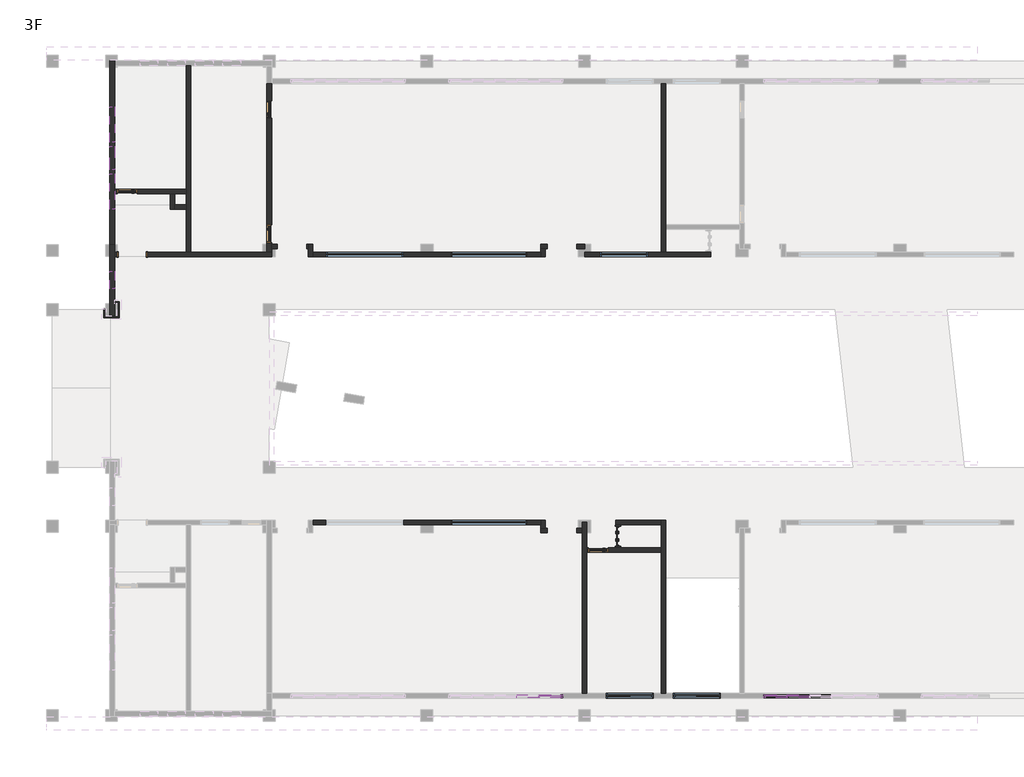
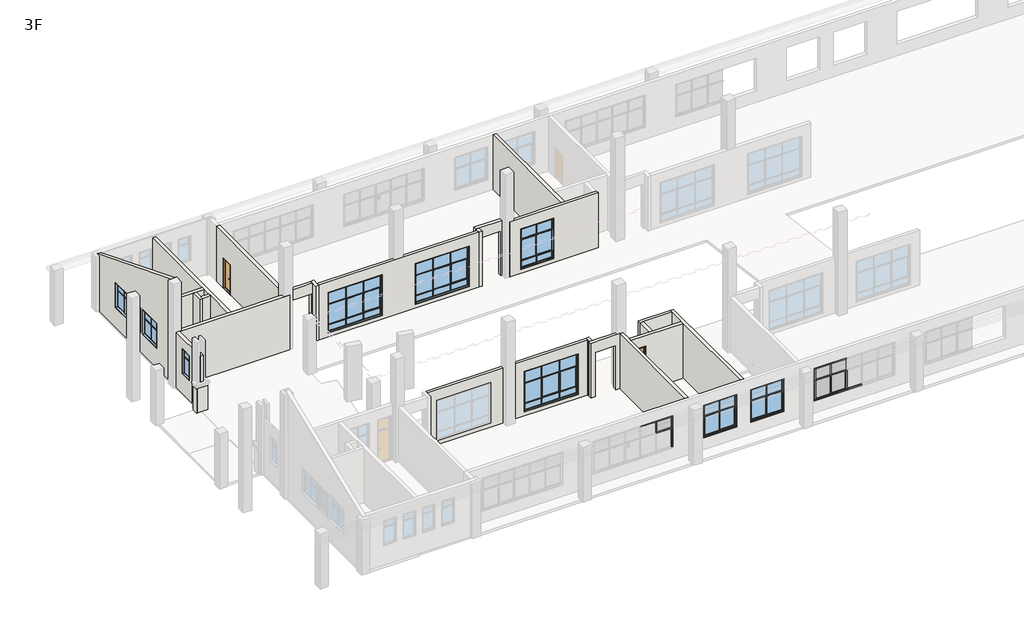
# One storey, part 2 of 9: 27 walls, 17 members, 10 windows, 6 doors, 4 plates.
"""IFC4 building model written with IfcOpenShell, lengths in millimetres."""

from ifc_helpers import new_model, si_unit, frame, origin, place, context, project, spatial, polyline, outline, extrude, faceted_brep, transform, mapped, element, save
from components import door_014e05d9, dk1_dk1_83e99b34, m2_m2_a1934b10, m3_m3_9c525ee5, m4_m4_ba408c81, m4_m4_3ad702a5, member_7564be38, member_1f4d75dd, member_0b7842ad, member_163d5e45, member_ffafc35e, member_2b011958, member_9c26cac3, member_6c42befd, member_a374fdad, plate_1cc4df2b, plate_4fa5932a, plate_18a10205, window_f5fa71fb, lc2_lc2_631be3da, lc4_lc4_4954e093, lc4_lc4_b4c6c5ac, lc5_lc5_223d64ff, lc5_lc5_9ec79463, lc7_lc7_e78a5a98, lc7a_lc7a_525a1188, lc8_lc8_f37dbe4c

model = new_model("IFC4")

# Units and contexts
model_context = context("Model", 3, world=origin())
ifc_project = project(units=[si_unit("LENGTHUNIT", "METRE", prefix="MILLI")], contexts=[model_context])

# Site, building, storey
site = spatial("IfcSite", under=ifc_project)
building = spatial("IfcBuilding", under=site)
storey = spatial("IfcBuildingStorey", under=building, Name="3F", Elevation=8400.0)

# Doors
placement = place(None, origin())
door_shape = door_014e05d9(model_context)
element("IfcDoor", 1, ObjectType="FM(丙）1 : FM(丙）1", at=placement, inside=storey, context=model_context, shape_type="MappedRepresentation", body=[
    mapped(door_shape, transform((28700.0000027, 9100.0, 8400.0), x_axis=(0.0, 1.0, 0.0), y_axis=(-1.0, 0.0, 0.0), z_axis=(0.0, 0.0, 1.0))),
])
dk1_dk1_shape = dk1_dk1_83e99b34(model_context)
element("IfcDoor", 2, ObjectType="DK1 : DK1", at=placement, inside=storey, context=model_context, shape_type="MappedRepresentation", body=[
    mapped(dk1_dk1_shape, transform((4050.0, 23399.723093, 8400.0), x_axis=(1.0, 0.0, 0.0), y_axis=(0.0, 1.0, 0.0), z_axis=(0.0, 0.0, 1.0))),
])
m2_m2_shape = m2_m2_a1934b10(model_context)
element("IfcDoor", 3, ObjectType="M2 : M2", at=placement, inside=storey, context=model_context, shape_type="MappedRepresentation", body=[
    mapped(m2_m2_shape, transform((27700.0000004, 8399.6678355, 8400.0), x_axis=(1.0, 0.0, 0.0), y_axis=(0.0, 1.0, 0.0), z_axis=(0.0, 0.0, 1.0))),
])
m3_m3_shape = m3_m3_9c525ee5(model_context)
element("IfcDoor", 4, ObjectType="M3 : M3", at=placement, inside=storey, context=model_context, shape_type="MappedRepresentation", body=[
    mapped(m3_m3_shape, transform((3800.0000003, 26599.2230983, 8400.0), x_axis=(1.0, 0.0, 0.0), y_axis=(0.0, 1.0, 0.0), z_axis=(0.0, 0.0, 1.0))),
])
m4_m4_shape = m4_m4_ba408c81(model_context)
element("IfcDoor", 5, ObjectType="M4 : M4", at=placement, inside=storey, context=model_context, shape_type="MappedRepresentation", body=[
    mapped(m4_m4_shape, transform((11000.0, 30750.0, 8400.0), x_axis=(0.0, -1.0, 0.0), y_axis=(1.0, 0.0, 0.0), z_axis=(0.0, 0.0, 1.0))),
])
m4_m4_2_shape = m4_m4_3ad702a5(model_context)
element("IfcDoor", 6, ObjectType="M4 : M4", at=placement, inside=storey, context=model_context, shape_type="MappedRepresentation", body=[
    mapped(m4_m4_2_shape, transform((11000.0, 24450.0, 8400.0), x_axis=(0.0, 1.0, 0.0), y_axis=(-1.0, 0.0, 0.0), z_axis=(0.0, 0.0, 1.0))),
])

# Members
member_shape = member_7564be38(model_context)
element("IfcMember", 7, ObjectType="矩形竖梃 : 教学楼 – 矩形竖梃 – 100x150mm", at=placement, inside=storey, context=model_context, shape_type="MappedRepresentation", body=[
    mapped(member_shape, transform((25900.0, 990.0, 11800.0), x_axis=(0.0, 0.0, 1.0), y_axis=(0.0, -1.0, 0.0), z_axis=(1.0, 0.0, 0.0))),
])
element("IfcMember", 8, ObjectType="矩形竖梃 : 教学楼 – 矩形竖梃 – 100x150mm", at=placement, inside=storey, context=model_context, shape_type="MappedRepresentation", body=[
    mapped(member_shape, transform((36100.0, 990.0, 9300.0), x_axis=(0.0, 0.0, -1.0), y_axis=(0.0, -1.0, 0.0), z_axis=(-1.0, 0.0, 0.0))),
])
member_2_shape = member_1f4d75dd(model_context)
element("IfcMember", 9, ObjectType="矩形竖梃 : 教学楼 – 矩形竖梃 – 50x150mm", at=placement, inside=storey, context=model_context, shape_type="MappedRepresentation", body=[
    mapped(member_2_shape, transform((38450.0, 990.0, 9400.0), x_axis=(1.0, 0.0, 0.0), y_axis=(0.0, -1.0, 0.0), z_axis=(0.0, 0.0, -1.0))),
])
member_3_shape = member_0b7842ad(model_context)
element("IfcMember", 10, ObjectType="矩形竖梃 : 教学楼 – 矩形竖梃 – 50x150mm", at=placement, inside=storey, context=model_context, shape_type="MappedRepresentation", body=[
    mapped(member_3_shape, transform((37300.0, 990.0, 10850.0), x_axis=(0.0, 0.0, 1.0), y_axis=(0.0, -1.0, 0.0), z_axis=(1.0, 0.0, 0.0))),
])
member_4_shape = member_163d5e45(model_context)
element("IfcMember", 11, ObjectType="矩形竖梃 : 教学楼 – 矩形竖梃 – 50x150mm", at=placement, inside=storey, context=model_context, shape_type="MappedRepresentation", body=[
    mapped(member_4_shape, transform((38450.0, 990.0, 10850.0), x_axis=(0.0, 0.0, 1.0), y_axis=(0.0, -1.0, 0.0), z_axis=(1.0, 0.0, 0.0))),
])
element("IfcMember", 12, ObjectType="矩形竖梃 : 教学楼 – 矩形竖梃 – 50x150mm", at=placement, inside=storey, context=model_context, shape_type="MappedRepresentation", body=[
    mapped(member_3_shape, transform((25800.0, 990.0, 10850.0), x_axis=(0.0, 0.0, 1.0), y_axis=(0.0, -1.0, 0.0), z_axis=(1.0, 0.0, 0.0))),
])
member_5_shape = member_ffafc35e(model_context)
element("IfcMember", 13, ObjectType="矩形竖梃 : 教学楼 – 矩形竖梃 – 100x150mm", at=placement, inside=storey, context=model_context, shape_type="MappedRepresentation", body=[
    mapped(member_5_shape, transform((37300.0, 990.0, 9300.0), x_axis=(0.0, 0.0, -1.0), y_axis=(0.0, -1.0, 0.0), z_axis=(-1.0, 0.0, 0.0))),
])
member_6_shape = member_2b011958(model_context)
element("IfcMember", 14, ObjectType="矩形竖梃 : 教学楼 – 矩形竖梃 – 100x150mm", at=placement, inside=storey, context=model_context, shape_type="MappedRepresentation", body=[
    mapped(member_6_shape, transform((38450.0, 990.0, 9300.0), x_axis=(0.0, 0.0, -1.0), y_axis=(0.0, -1.0, 0.0), z_axis=(-1.0, 0.0, 0.0))),
])
element("IfcMember", 15, ObjectType="矩形竖梃 : 教学楼 – 矩形竖梃 – 100x150mm", at=placement, inside=storey, context=model_context, shape_type="MappedRepresentation", body=[
    mapped(member_shape, transform((37300.0, 990.0, 11800.0), x_axis=(0.0, 0.0, 1.0), y_axis=(0.0, -1.0, 0.0), z_axis=(1.0, 0.0, 0.0))),
])
element("IfcMember", 16, ObjectType="矩形竖梃 : 教学楼 – 矩形竖梃 – 100x150mm", at=placement, inside=storey, context=model_context, shape_type="MappedRepresentation", body=[
    mapped(member_5_shape, transform((24700.0, 990.0, 11800.0), x_axis=(0.0, 0.0, 1.0), y_axis=(0.0, -1.0, 0.0), z_axis=(1.0, 0.0, 0.0))),
])
element("IfcMember", 17, ObjectType="矩形竖梃 : 教学楼 – 矩形竖梃 – 100x150mm", at=placement, inside=storey, context=model_context, shape_type="MappedRepresentation", body=[
    mapped(member_5_shape, transform((38450.0, 990.0, 11800.0), x_axis=(0.0, 0.0, 1.0), y_axis=(0.0, -1.0, 0.0), z_axis=(1.0, 0.0, 0.0))),
])
member_7_shape = member_9c26cac3(model_context)
element("IfcMember", 18, ObjectType="矩形竖梃 : 教学楼 – 矩形竖梃 – 50x150mm", at=placement, inside=storey, context=model_context, shape_type="MappedRepresentation", body=[
    mapped(member_7_shape, transform((24700.0, 990.0, 10875.0), x_axis=(1.0, 0.0, 0.0), y_axis=(0.0, -1.0, 0.0), z_axis=(0.0, 0.0, -1.0))),
])
element("IfcMember", 19, ObjectType="矩形竖梃 : 教学楼 – 矩形竖梃 – 50x150mm", at=placement, inside=storey, context=model_context, shape_type="MappedRepresentation", body=[
    mapped(member_7_shape, transform((37300.0, 990.0, 10875.0), x_axis=(1.0, 0.0, 0.0), y_axis=(0.0, -1.0, 0.0), z_axis=(0.0, 0.0, -1.0))),
])
member_8_shape = member_6c42befd(model_context)
element("IfcMember", 20, ObjectType="矩形竖梃 : 教学楼 – 矩形竖梃 – 100x150mm", at=placement, inside=storey, context=model_context, shape_type="MappedRepresentation", body=[
    mapped(member_8_shape, transform((36100.0, 990.0, 11700.0), x_axis=(-1.0, 0.0, 0.0), y_axis=(0.0, -1.0, 0.0), z_axis=(0.0, 0.0, 1.0))),
])
member_9_shape = member_a374fdad(model_context)
element("IfcMember", 21, ObjectType="矩形竖梃 : 教学楼 – 矩形竖梃 – 100x150mm", at=placement, inside=storey, context=model_context, shape_type="MappedRepresentation", body=[
    mapped(member_9_shape, transform((25900.0, 990.0, 9400.0), x_axis=(1.0, 0.0, 0.0), y_axis=(0.0, -1.0, 0.0), z_axis=(0.0, 0.0, -1.0))),
])
element("IfcMember", 22, ObjectType="矩形竖梃 : 教学楼 – 矩形竖梃 – 100x150mm", at=placement, inside=storey, context=model_context, shape_type="MappedRepresentation", body=[
    mapped(member_8_shape, transform((25900.0, 990.0, 10850.0), x_axis=(1.0, 0.0, 0.0), y_axis=(0.0, -1.0, 0.0), z_axis=(0.0, 0.0, -1.0))),
])
element("IfcMember", 23, ObjectType="矩形竖梃 : 教学楼 – 矩形竖梃 – 100x150mm", at=placement, inside=storey, context=model_context, shape_type="MappedRepresentation", body=[
    mapped(member_9_shape, transform((36100.0, 990.0, 10850.0), x_axis=(-1.0, 0.0, 0.0), y_axis=(0.0, -1.0, 0.0), z_axis=(0.0, 0.0, 1.0))),
])

# Plates
plate_shape = plate_1cc4df2b(model_context)
element("IfcPlate", 24, ObjectType="系统嵌板 : 玻璃", at=placement, inside=storey, context=model_context, shape_type="MappedRepresentation", body=[
    mapped(plate_shape, transform((25262.5, 990.0, 10875.0), x_axis=(1.0, 0.0, 0.0), y_axis=(0.0, 1.0, 0.0), z_axis=(0.0, 0.0, 1.0))),
])
element("IfcPlate", 25, ObjectType="系统嵌板 : 玻璃", at=placement, inside=storey, context=model_context, shape_type="MappedRepresentation", body=[
    mapped(plate_shape, transform((36737.5, 990.0, 10875.0), x_axis=(1.0, 0.0, 0.0), y_axis=(0.0, 1.0, 0.0), z_axis=(0.0, 0.0, 1.0))),
])
plate_2_shape = plate_4fa5932a(model_context)
element("IfcPlate", 26, ObjectType="系统嵌板 : 玻璃", at=placement, inside=storey, context=model_context, shape_type="MappedRepresentation", body=[
    mapped(plate_2_shape, transform((37875.0, 990.0, 10875.0), x_axis=(1.0, 0.0, 0.0), y_axis=(0.0, 1.0, 0.0), z_axis=(0.0, 0.0, 1.0))),
])
plate_3_shape = plate_18a10205(model_context)
element("IfcPlate", 27, ObjectType="教学楼 - 窗嵌板：双扇推拉窗 : 教学楼 - 窗嵌板：双扇推拉窗", at=placement, inside=storey, context=model_context, shape_type="MappedRepresentation", body=[
    mapped(plate_3_shape, transform((37312.5, 990.0, 9400.0), x_axis=(1.0, 0.0, 0.0), y_axis=(0.0, 1.0, 0.0), z_axis=(0.0, 0.0, 1.0))),
])

# Walls
element("IfcWall", 28, ObjectType="教学楼 – 饰面砖外墙 – 200mm", at=placement, inside=storey, context=model_context, shape_type="Brep", body=[
    faceted_brep([(3167.0000002, 20300.0, 8400.0), (3167.0000002, 20900.0, 8400.0), (3167.0000002, 20950.0, 8400.0), (3167.0000002, 21000.0, 8400.0), (3167.0000002, 23282.723093, 8400.0), (3167.0000002, 23516.723093, 8400.0), (3167.0000002, 23900.0, 8400.0), (3167.0000002, 23900.0, 12600.0), (3167.0000002, 23516.723093, 12600.0), (3167.0000002, 23282.723093, 12600.0), (3167.0000002, 20300.0, 12600.0), (3167.0000002, 21649.6954632, 9900.0), (3167.0000002, 21649.6954632, 11800.0), (3167.0000002, 22549.6954632, 11800.0), (3167.0000002, 22549.6954632, 9900.0), (2917.0000002, 20300.0, 8400.0), (2917.0000002, 20300.0, 12600.0), (2917.0000002, 23300.0, 12600.0), (2917.0000002, 23900.0, 12600.0), (2917.0000002, 23900.0, 8400.0), (2917.0000002, 23300.0, 8400.0), (2917.0000002, 20900.0, 8400.0), (2917.0000002, 21649.6954632, 9900.0), (2917.0000002, 22549.6954632, 9900.0), (2917.0000002, 22549.6954632, 11800.0), (2917.0000002, 21649.6954632, 11800.0)], [[[0, 1, 2, 3, 4, 5, 6, 7, 8, 9, 10], [11, 12, 13, 14]], [[15, 16, 17, 18, 19, 20, 21], [22, 23, 24, 25]], [[6, 5, 4, 3, 2, 1, 0, 15, 21, 20, 19]], [[7, 6, 19, 18]], [[10, 9, 8, 7, 18, 17, 16]], [[0, 10, 16, 15]], [[12, 11, 22, 25]], [[13, 12, 25, 24]], [[14, 13, 24, 23]], [[11, 14, 23, 22]]]),
])
element("IfcWall", 29, ObjectType="教学楼 – 涂料内墙 – 200mm", at=placement, inside=storey, context=model_context, shape_type="Brep", body=[
    faceted_brep([(10883.0, 23516.723093, 12600.0), (10883.0, 23916.723093, 12600.0), (10883.0, 32075.0, 12600.0), (10883.0, 32075.0, 8400.0), (10883.0, 31200.0, 8400.0), (10883.0, 31200.0, 10700.0), (10883.0, 30300.0, 10700.0), (10883.0, 30300.0, 8400.0), (10883.0, 24900.0, 8400.0), (10883.0, 24900.0, 10700.0), (10883.0, 24000.0, 10700.0), (10883.0, 24000.0, 8400.0), (10883.0, 23916.723093, 8400.0), (10883.0, 23516.723093, 8400.0), (11117.0, 32075.0, 12600.0), (11117.0, 23916.7231012, 12600.0), (11117.0, 23682.7231012, 12600.0), (11117.0, 23516.723093, 12600.0), (11117.0, 23516.723093, 8400.0), (11117.0, 23682.7231012, 8400.0), (11117.0, 23916.7231012, 8400.0), (11117.0, 24000.0, 8400.0), (11117.0, 24000.0, 10700.0), (11117.0, 24900.0, 10700.0), (11117.0, 24900.0, 8400.0), (11117.0, 30300.0, 8400.0), (11117.0, 30300.0, 10700.0), (11117.0, 31200.0, 10700.0), (11117.0, 31200.0, 8400.0), (11117.0, 32075.0, 8400.0)], [[[0, 1, 2, 3, 4, 5, 6, 7, 8, 9, 10, 11, 12, 13]], [[14, 15, 16, 17, 18, 19, 20, 21, 22, 23, 24, 25, 26, 27, 28, 29]], [[18, 13, 12, 11, 21, 20, 19]], [[3, 29, 28, 4]], [[7, 25, 24, 8]], [[2, 1, 0, 17, 16, 15, 14]], [[3, 2, 14, 29]], [[0, 13, 18, 17]], [[6, 26, 25, 7]], [[26, 6, 5, 27]], [[27, 5, 4, 28]], [[23, 9, 8, 24]], [[9, 23, 22, 10]], [[10, 22, 21, 11]]]),
])
element("IfcWall", 30, ObjectType="教学楼 – 涂料内墙 – 200mm", at=placement, inside=storey, context=model_context, shape_type="Brep", body=[
    faceted_brep([(6783.0000003, 32982.6954639, 8400.0), (6783.0000003, 26716.2230983, 8400.0), (6783.0000003, 26482.2230983, 8400.0), (6783.0000003, 25916.2231012, 8400.0), (6783.0000003, 25682.2231012, 8400.0), (6783.0000003, 23516.723093, 8400.0), (6783.0000003, 23516.723093, 12600.0), (6783.0000003, 25682.2231012, 12600.0), (6783.0000003, 25916.2231012, 12600.0), (6783.0000003, 26482.2230983, 12600.0), (6783.0000003, 26716.2230983, 12600.0), (6783.0000003, 32982.6954639, 12600.0), (7017.0000003, 32982.6954639, 8400.0), (7017.0000003, 32982.6954639, 12600.0), (7017.0000003, 23516.723093, 12600.0), (7017.0000003, 23516.723093, 8400.0)], [[[0, 1, 2, 3, 4, 5, 6, 7, 8, 9, 10, 11]], [[12, 13, 14, 15]], [[5, 4, 3, 2, 1, 0, 12, 15]], [[11, 10, 9, 8, 7, 6, 14, 13]], [[6, 5, 15, 14]], [[0, 11, 13, 12]]]),
])
element("IfcWall", 31, ObjectType="教学楼 – 涂料内墙 – 200mm", at=placement, inside=storey, context=model_context, shape_type="Brep", body=[
    faceted_brep([(30883.0000029, 32075.0, 8400.0), (30883.0000029, 23516.6954638, 8400.0), (30883.0000029, 23516.6954638, 12600.0), (30883.0000029, 32075.0, 12600.0), (31117.0000029, 32075.0, 8400.0), (31117.0000029, 32075.0, 12600.0), (31117.0000029, 24916.6954638, 12600.0), (31117.0000029, 24682.6954638, 12600.0), (31117.0000029, 23516.6954638, 12600.0), (31117.0000029, 23516.6954638, 8400.0), (31117.0000029, 24682.6954638, 8400.0), (31117.0000029, 24916.6954638, 8400.0)], [[[0, 1, 2, 3]], [[4, 5, 6, 7, 8, 9, 10, 11]], [[1, 0, 4, 11, 10, 9]], [[3, 2, 8, 7, 6, 5]], [[2, 1, 9, 8]], [[0, 3, 5, 4]]]),
])
element("IfcWall", 32, ObjectType="教学楼 – 涂料内墙 – 200mm", at=placement, inside=storey, context=model_context, shape_type="Brep", body=[
    faceted_brep([(27000.0, 23282.6954638, 8400.0), (33417.0000031, 23282.6954638, 8400.0), (33417.0000031, 23282.6954638, 12600.0), (27000.0, 23282.6954638, 12600.0), (30200.0, 23282.6954638, 8700.0), (27800.0, 23282.6954638, 8700.0), (27800.0, 23282.6954638, 11800.0), (30200.0, 23282.6954638, 11800.0), (27000.0, 23516.6954638, 8400.0), (27000.0, 23516.6954638, 12600.0), (27317.0, 23516.6954638, 12600.0), (30883.0000029, 23516.6954638, 12600.0), (31117.0000029, 23516.6954638, 12600.0), (33183.0000031, 23516.6954638, 12600.0), (33417.0000031, 23516.6954638, 12600.0), (33417.0000031, 23516.6954638, 8400.0), (33183.0000031, 23516.6954638, 8400.0), (31117.0000029, 23516.6954638, 8400.0), (30883.0000029, 23516.6954638, 8400.0), (27317.0, 23516.6954638, 8400.0), (30200.0, 23516.6954638, 8700.0), (30200.0, 23516.6954638, 11800.0), (27800.0, 23516.6954638, 11800.0), (27800.0, 23516.6954638, 8700.0), (27000.0, 23283.0, 8400.0), (27000.0, 23283.0, 12600.0)], [[[0, 1, 2, 3], [4, 5, 6, 7]], [[8, 9, 10, 11, 12, 13, 14, 15, 16, 17, 18, 19], [20, 21, 22, 23]], [[1, 0, 24, 8, 19, 18, 17, 16, 15]], [[3, 2, 14, 13, 12, 11, 10, 9, 25]], [[0, 3, 25, 9, 8, 24]], [[2, 1, 15, 14]], [[21, 20, 4, 7]], [[22, 21, 7, 6]], [[23, 22, 6, 5]], [[20, 23, 5, 4]]]),
])
element("IfcWall", 33, ObjectType="教学楼 – 涂料内墙 – 200mm", at=placement, inside=storey, context=model_context, shape_type="Brep", body=[
    faceted_brep([(24782.9999964, 23916.7231007, 12600.0), (26683.0, 23916.7231007, 12600.0), (27000.0, 23916.7231007, 12600.0), (27000.0, 23916.7231007, 8400.0), (26683.0, 23916.7231007, 8400.0), (26599.9999969, 23916.7231007, 8400.0), (26599.9999969, 23916.7231007, 11800.0), (25099.9999969, 23916.7231007, 11800.0), (25099.9999969, 23916.7231007, 8400.0), (24782.9999964, 23916.7231007, 8400.0), (27000.0, 23682.7231007, 12600.0), (26683.0, 23682.7231007, 12600.0), (25016.9999964, 23682.7231007, 12600.0), (24782.9999964, 23682.7231007, 12600.0), (24782.9999964, 23682.7231007, 8400.0), (25016.9999964, 23682.7231007, 8400.0), (25099.9999969, 23682.7231007, 8400.0), (25099.9999969, 23682.7231007, 11800.0), (26599.9999969, 23682.7231007, 11800.0), (26599.9999969, 23682.7231007, 8400.0), (26683.0, 23682.7231007, 8400.0), (27000.0, 23682.7231007, 8400.0)], [[[0, 1, 2, 3, 4, 5, 6, 7, 8, 9]], [[10, 11, 12, 13, 14, 15, 16, 17, 18, 19, 20, 21]], [[14, 9, 8, 16, 15]], [[3, 21, 20, 19, 5, 4]], [[2, 1, 0, 13, 12, 11, 10]], [[3, 2, 10, 21]], [[0, 9, 14, 13]], [[7, 17, 16, 8]], [[17, 7, 6, 18]], [[18, 6, 5, 19]]]),
])
element("IfcWall", 34, ObjectType="教学楼 – 涂料内墙 – 200mm", at=placement, inside=storey, context=model_context, shape_type="Brep", body=[
    faceted_brep([(24782.9999964, 23682.7231007, 8400.0), (24782.9999964, 23516.6954641, 8400.0), (24782.9999964, 23282.6954641, 8400.0), (24782.9999964, 23282.6954641, 12600.0), (24782.9999964, 23516.6954641, 12600.0), (24782.9999964, 23682.7231007, 12600.0), (25016.9999964, 23682.7231007, 8400.0), (25016.9999964, 23682.7231007, 12600.0), (25016.9999964, 23282.6954641, 12600.0), (25016.9999964, 23282.6954641, 8400.0)], [[[0, 1, 2, 3, 4, 5]], [[6, 7, 8, 9]], [[2, 1, 0, 6, 9]], [[5, 4, 3, 8, 7]], [[0, 5, 7, 6]], [[3, 2, 9, 8]]]),
])
element("IfcWall", 35, ObjectType="教学楼 – 涂料内墙 – 200mm", at=placement, inside=storey, context=model_context, shape_type="Brep", body=[
    faceted_brep([(24782.9999964, 23516.6954641, 8400.0), (19317.0, 23516.6954641, 8400.0), (18683.0, 23516.6954641, 8400.0), (13216.9999996, 23516.6954641, 8400.0), (13216.9999996, 23516.6954641, 12600.0), (18683.0, 23516.6954641, 12600.0), (19317.0, 23516.6954641, 12600.0), (24782.9999964, 23516.6954641, 12600.0), (24099.9999999, 23516.6954641, 8700.0), (24099.9999999, 23516.6954641, 11800.0), (20199.9999999, 23516.6954641, 11800.0), (20199.9999999, 23516.6954641, 8700.0), (17799.999999, 23516.6954641, 8700.0), (17799.999999, 23516.6954641, 11800.0), (13899.999999, 23516.6954641, 11800.0), (13899.999999, 23516.6954641, 8700.0), (24782.9999964, 23282.6954641, 8400.0), (24782.9999964, 23282.6954641, 12600.0), (13216.9999996, 23282.6954641, 12600.0), (13216.9999996, 23282.6954641, 8400.0), (24099.9999999, 23282.6954641, 8700.0), (20199.9999999, 23282.6954641, 8700.0), (20199.9999999, 23282.6954641, 11800.0), (24099.9999999, 23282.6954641, 11800.0), (17799.999999, 23282.6954641, 8700.0), (13899.999999, 23282.6954641, 8700.0), (13899.999999, 23282.6954641, 11800.0), (17799.999999, 23282.6954641, 11800.0)], [[[0, 1, 2, 3, 4, 5, 6, 7], [8, 9, 10, 11], [12, 13, 14, 15]], [[16, 17, 18, 19], [20, 21, 22, 23], [24, 25, 26, 27]], [[3, 2, 1, 0, 16, 19]], [[7, 6, 5, 4, 18, 17]], [[0, 7, 17, 16]], [[4, 3, 19, 18]], [[9, 8, 20, 23]], [[10, 9, 23, 22]], [[11, 10, 22, 21]], [[8, 11, 21, 20]], [[13, 12, 24, 27]], [[14, 13, 27, 26]], [[15, 14, 26, 25]], [[12, 15, 25, 24]]]),
])
element("IfcWall", 36, ObjectType="教学楼 – 涂料内墙 – 200mm", at=placement, inside=storey, context=model_context, shape_type="Brep", body=[
    faceted_brep([(13216.9999996, 23282.6954641, 8400.0), (13216.9999996, 23516.6954641, 8400.0), (13216.9999996, 23916.7231012, 8400.0), (13216.9999996, 23916.7231012, 12600.0), (13216.9999996, 23516.6954641, 12600.0), (13216.9999996, 23282.6954641, 12600.0), (12982.9999996, 23282.6954641, 8400.0), (12982.9999996, 23282.6954641, 12600.0), (12982.9999996, 23682.7231012, 12600.0), (12982.9999996, 23916.7231012, 12600.0), (12982.9999996, 23916.7231012, 8400.0), (12982.9999996, 23682.7231012, 8400.0)], [[[0, 1, 2, 3, 4, 5]], [[6, 7, 8, 9, 10, 11]], [[2, 1, 0, 6, 11, 10]], [[5, 4, 3, 9, 8, 7]], [[3, 2, 10, 9]], [[0, 5, 7, 6]]]),
])
element("IfcWall", 37, ObjectType="教学楼 – 涂料内墙 – 200mm", at=placement, inside=storey, context=model_context, shape_type="Brep", body=[
    faceted_brep([(11117.0, 23916.7231012, 12600.0), (12982.9999996, 23916.7231012, 12600.0), (12982.9999996, 23916.7231012, 8400.0), (12900.0000009, 23916.7231012, 8400.0), (12900.0000009, 23916.7231012, 11800.0), (11400.0000009, 23916.7231012, 11800.0), (11400.0000009, 23916.7231012, 8400.0), (11117.0, 23916.7231012, 8400.0), (12982.9999996, 23682.7231012, 12600.0), (11317.0, 23682.7231012, 12600.0), (11117.0, 23682.7231012, 12600.0), (11117.0, 23682.7231012, 8400.0), (11317.0, 23682.7231012, 8400.0), (11400.0000009, 23682.7231012, 8400.0), (11400.0000009, 23682.7231012, 11800.0), (12900.0000009, 23682.7231012, 11800.0), (12900.0000009, 23682.7231012, 8400.0), (12982.9999996, 23682.7231012, 8400.0)], [[[0, 1, 2, 3, 4, 5, 6, 7]], [[8, 9, 10, 11, 12, 13, 14, 15, 16, 17]], [[2, 17, 16, 3]], [[11, 7, 6, 13, 12]], [[1, 0, 10, 9, 8]], [[2, 1, 8, 17]], [[0, 7, 11, 10]], [[5, 14, 13, 6]], [[14, 5, 4, 15]], [[15, 4, 3, 16]]]),
])
element("IfcWall", 38, ObjectType="教学楼 – 涂料内墙 – 200mm", at=placement, inside=storey, context=model_context, shape_type="Brep", body=[
    faceted_brep([(11117.0, 23282.723093, 12600.0), (10683.0, 23282.723093, 12600.0), (3167.0000002, 23282.723093, 12600.0), (3167.0000002, 23282.723093, 8400.0), (3300.0, 23282.723093, 8400.0), (3300.0, 23282.723093, 10800.0), (4800.0, 23282.723093, 10800.0), (4800.0, 23282.723093, 8400.0), (11117.0, 23282.723093, 8400.0), (3167.0000002, 23516.723093, 12600.0), (3300.0, 23516.723093, 12600.0), (6783.0000003, 23516.723093, 12600.0), (7017.0000003, 23516.723093, 12600.0), (10683.0, 23516.723093, 12600.0), (10883.0, 23516.723093, 12600.0), (11117.0, 23516.723093, 12600.0), (11117.0, 23516.723093, 8400.0), (10883.0, 23516.723093, 8400.0), (10683.0, 23516.723093, 8400.0), (7017.0000003, 23516.723093, 8400.0), (6783.0000003, 23516.723093, 8400.0), (4800.0, 23516.723093, 8400.0), (4800.0, 23516.723093, 10800.0), (3300.0, 23516.723093, 10800.0), (3300.0, 23516.723093, 8400.0), (3167.0000002, 23516.723093, 8400.0)], [[[0, 1, 2, 3, 4, 5, 6, 7, 8]], [[9, 10, 11, 12, 13, 14, 15, 16, 17, 18, 19, 20, 21, 22, 23, 24, 25]], [[3, 25, 24, 4]], [[16, 8, 7, 21, 20, 19, 18, 17]], [[2, 1, 0, 15, 14, 13, 12, 11, 10, 9]], [[0, 8, 16, 15]], [[3, 2, 9, 25]], [[6, 22, 21, 7]], [[22, 6, 5, 23]], [[23, 5, 4, 24]]]),
])
element("IfcWall", 39, ObjectType="教学楼 – 涂料内墙 – 200mm", at=placement, inside=storey, context=model_context, shape_type="Brep", body=[
    faceted_brep([(3167.0000002, 26716.2230983, 12600.0), (6783.0000003, 26716.2230983, 12600.0), (6783.0000003, 26716.2230983, 8400.0), (4300.0000003, 26716.2230983, 8400.0), (4300.0000003, 26716.2230983, 10700.0), (3300.0000003, 26716.2230983, 10700.0), (3300.0000003, 26716.2230983, 8400.0), (3167.0000002, 26716.2230983, 8400.0), (6783.0000003, 26482.2230983, 12600.0), (6217.0000019, 26482.2230983, 12600.0), (5983.0000019, 26482.2230983, 12600.0), (3167.0000002, 26482.2230983, 12600.0), (3167.0000002, 26482.2230983, 8400.0), (3300.0000003, 26482.2230983, 8400.0), (3300.0000003, 26482.2230983, 10700.0), (4300.0000003, 26482.2230983, 10700.0), (4300.0000003, 26482.2230983, 8400.0), (5983.0000019, 26482.2230983, 8400.0), (6217.0000019, 26482.2230983, 8400.0), (6783.0000003, 26482.2230983, 8400.0)], [[[0, 1, 2, 3, 4, 5, 6, 7]], [[8, 9, 10, 11, 12, 13, 14, 15, 16, 17, 18, 19]], [[2, 19, 18, 17, 16, 3]], [[12, 7, 6, 13]], [[1, 0, 11, 10, 9, 8]], [[2, 1, 8, 19]], [[0, 7, 12, 11]], [[15, 4, 3, 16]], [[4, 15, 14, 5]], [[5, 14, 13, 6]]]),
])
element("IfcWall", 40, ObjectType="教学楼 – 涂料内墙 – 200mm", at=placement, inside=storey, context=model_context, shape_type="Brep", body=[
    faceted_brep([(6217.0000019, 25682.2231012, 8400.0), (6217.0000019, 25916.2231012, 8400.0), (6217.0000019, 26482.2230983, 8400.0), (6217.0000019, 26482.2230983, 12600.0), (6217.0000019, 25916.2231012, 12600.0), (6217.0000019, 25682.2231012, 12600.0), (5983.0000019, 25682.2231012, 8400.0), (5983.0000019, 25682.2231012, 12600.0), (5983.0000019, 26482.2230983, 12600.0), (5983.0000019, 26482.2230983, 8400.0)], [[[0, 1, 2, 3, 4, 5]], [[6, 7, 8, 9]], [[2, 1, 0, 6, 9]], [[5, 4, 3, 8, 7]], [[0, 5, 7, 6]], [[3, 2, 9, 8]]]),
])
element("IfcWall", 41, ObjectType="教学楼 – 涂料内墙 – 200mm", at=placement, inside=storey, context=model_context, shape_type="SweptSolid", body=[
    extrude(outline(polyline([(6217.0000019, 25916.2231012), (6783.0000003, 25916.2231012), (6783.0000003, 25682.2231012), (6217.0000019, 25682.2231012), (6217.0000019, 25916.2231012)])), frame((0.0, 0.0, 8400.0), z_axis=(0.0, 0.0, 1.0), x_axis=(1.0, 0.0, 0.0)), (0.0, 0.0, 1.0), 4200.0),
])
element("IfcWall", 42, ObjectType="教学楼 – 涂料内墙 – 200mm", at=placement, inside=storey, context=model_context, shape_type="Brep", body=[
    faceted_brep([(27117.0, 1125.0, 8400.0), (27117.0, 8282.6678355, 8400.0), (27117.0, 8516.6678355, 8400.0), (27117.0, 9283.0, 8400.0), (27117.0, 9800.3045362, 8400.0), (27117.0, 9800.3045362, 12600.0), (27117.0, 9283.0, 12600.0), (27117.0, 8516.6678355, 12600.0), (27117.0, 8282.6678355, 12600.0), (27117.0, 1125.0, 12600.0), (26883.0, 1125.0, 8400.0), (26883.0, 1125.0, 12600.0), (26883.0, 9283.0, 12600.0), (26883.0, 9283.2768993, 12600.0), (26883.0, 9517.2768993, 12600.0), (26883.0, 9800.3045362, 12600.0), (26883.0, 9800.3045362, 8400.0), (26883.0, 9517.2768993, 8400.0), (26883.0, 9283.2768993, 8400.0), (26883.0, 9283.0, 8400.0)], [[[0, 1, 2, 3, 4, 5, 6, 7, 8, 9]], [[10, 11, 12, 13, 14, 15, 16, 17, 18, 19]], [[4, 3, 2, 1, 0, 10, 19, 18, 17, 16]], [[5, 4, 16, 15]], [[9, 8, 7, 6, 5, 15, 14, 13, 12, 11]], [[0, 9, 11, 10]]]),
])
element("IfcWall", 43, ObjectType="教学楼 – 涂料内墙 – 200mm", at=placement, inside=storey, context=model_context, shape_type="Brep", body=[
    faceted_brep([(31117.0000029, 1125.0, 8400.0), (31117.0000029, 9917.3045362, 8400.0), (31117.0000029, 9917.3045362, 12600.0), (31117.0000029, 1125.0, 12600.0), (30883.0000029, 1125.0, 8400.0), (30883.0000029, 1125.0, 12600.0), (30883.0000029, 8282.6678355, 12600.0), (30883.0000029, 8516.6678355, 12600.0), (30883.0000029, 9683.3045362, 12600.0), (30883.0000029, 9917.3045362, 12600.0), (30883.0000029, 9917.3045362, 8400.0), (30883.0000029, 9683.3045362, 8400.0), (30883.0000029, 8516.6678355, 8400.0), (30883.0000029, 8282.6678355, 8400.0)], [[[0, 1, 2, 3]], [[4, 5, 6, 7, 8, 9, 10, 11, 12, 13]], [[1, 0, 4, 13, 12, 11, 10]], [[3, 2, 9, 8, 7, 6, 5]], [[2, 1, 10, 9]], [[0, 3, 5, 4]]]),
])
element("IfcWall", 44, ObjectType="教学楼 – 涂料内墙 – 200mm", at=placement, inside=storey, context=model_context, shape_type="Brep", body=[
    faceted_brep([(28583.0000027, 9683.3045362, 8400.0), (28817.0000027, 9683.3045362, 8400.0), (30883.0000029, 9683.3045362, 8400.0), (30883.0000029, 9683.3045362, 12600.0), (28817.0000027, 9683.3045362, 12600.0), (28583.0000027, 9683.3045362, 12600.0), (28583.0000027, 9917.3045362, 8400.0), (28583.0000027, 9917.3045362, 12600.0), (30883.0000029, 9917.3045362, 12600.0), (30883.0000029, 9917.3045362, 8400.0)], [[[0, 1, 2, 3, 4, 5]], [[6, 7, 8, 9]], [[2, 1, 0, 6, 9]], [[5, 4, 3, 8, 7]], [[3, 2, 9, 8]], [[0, 5, 7, 6]]]),
])
element("IfcWall", 45, ObjectType="教学楼 – 涂料内墙 – 200mm", at=placement, inside=storey, context=model_context, shape_type="Brep", body=[
    faceted_brep([(24782.9999964, 9517.2768993, 12600.0), (25016.9999964, 9517.2768993, 12600.0), (26683.0, 9517.2768993, 12600.0), (26883.0, 9517.2768993, 12600.0), (26883.0, 9517.2768993, 8400.0), (26683.0, 9517.2768993, 8400.0), (26599.9999991, 9517.2768993, 8400.0), (26599.9999991, 9517.2768993, 11800.0), (25099.9999991, 9517.2768993, 11800.0), (25099.9999991, 9517.2768993, 8400.0), (25016.9999964, 9517.2768993, 8400.0), (24782.9999964, 9517.2768993, 8400.0), (26883.0, 9283.2768993, 12600.0), (26683.0, 9283.2768993, 12600.0), (24782.9999964, 9283.2768993, 12600.0), (24782.9999964, 9283.2768993, 8400.0), (25099.9999991, 9283.2768993, 8400.0), (25099.9999991, 9283.2768993, 11800.0), (26599.9999991, 9283.2768993, 11800.0), (26599.9999991, 9283.2768993, 8400.0), (26683.0, 9283.2768993, 8400.0), (26883.0, 9283.2768993, 8400.0)], [[[0, 1, 2, 3, 4, 5, 6, 7, 8, 9, 10, 11]], [[12, 13, 14, 15, 16, 17, 18, 19, 20, 21]], [[15, 11, 10, 9, 16]], [[4, 21, 20, 19, 6, 5]], [[3, 2, 1, 0, 14, 13, 12]], [[0, 11, 15, 14]], [[4, 3, 12, 21]], [[18, 7, 6, 19]], [[7, 18, 17, 8]], [[8, 17, 16, 9]]]),
])
element("IfcWall", 46, ObjectType="教学楼 – 涂料内墙 – 200mm", at=placement, inside=storey, context=model_context, shape_type="Brep", body=[
    faceted_brep([(25016.9999964, 9517.2768993, 8400.0), (25016.9999964, 9917.3045359, 8400.0), (25016.9999964, 9917.3045359, 12600.0), (25016.9999964, 9517.2768993, 12600.0), (24782.9999964, 9517.2768993, 8400.0), (24782.9999964, 9517.2768993, 12600.0), (24782.9999964, 9683.3045359, 12600.0), (24782.9999964, 9917.3045359, 12600.0), (24782.9999964, 9917.3045359, 8400.0), (24782.9999964, 9683.3045359, 8400.0)], [[[0, 1, 2, 3]], [[4, 5, 6, 7, 8, 9]], [[1, 0, 4, 9, 8]], [[3, 2, 7, 6, 5]], [[0, 3, 5, 4]], [[2, 1, 8, 7]]]),
])
element("IfcWall", 47, ObjectType="教学楼 – 涂料内墙 – 200mm", at=placement, inside=storey, context=model_context, shape_type="Brep", body=[
    faceted_brep([(24782.9999964, 9917.3045359, 8400.0), (13216.9999996, 9917.3045359, 8400.0), (13216.9999996, 9917.3045359, 12600.0), (24782.9999964, 9917.3045359, 12600.0), (24099.9999993, 9917.3045359, 8700.0), (24099.9999993, 9917.3045359, 11800.0), (20199.9999993, 9917.3045359, 11800.0), (20199.9999993, 9917.3045359, 8700.0), (17799.9999993, 9917.3045359, 8700.0), (17799.9999993, 9917.3045359, 11800.0), (13899.9999993, 9917.3045359, 11800.0), (13899.9999993, 9917.3045359, 8700.0), (24782.9999964, 9683.3045359, 8400.0), (24782.9999964, 9683.3045359, 12600.0), (19317.0, 9683.3045359, 12600.0), (18683.0, 9683.3045359, 12600.0), (13216.9999996, 9683.3045359, 12600.0), (13216.9999996, 9683.3045359, 8400.0), (18683.0, 9683.3045359, 8400.0), (19317.0, 9683.3045359, 8400.0), (24099.9999993, 9683.3045359, 8700.0), (20199.9999993, 9683.3045359, 8700.0), (20199.9999993, 9683.3045359, 11800.0), (24099.9999993, 9683.3045359, 11800.0), (17799.9999993, 9683.3045359, 8700.0), (13899.9999993, 9683.3045359, 8700.0), (13899.9999993, 9683.3045359, 11800.0), (17799.9999993, 9683.3045359, 11800.0)], [[[0, 1, 2, 3], [4, 5, 6, 7], [8, 9, 10, 11]], [[12, 13, 14, 15, 16, 17, 18, 19], [20, 21, 22, 23], [24, 25, 26, 27]], [[1, 0, 12, 19, 18, 17]], [[3, 2, 16, 15, 14, 13]], [[0, 3, 13, 12]], [[2, 1, 17, 16]], [[5, 4, 20, 23]], [[6, 5, 23, 22]], [[7, 6, 22, 21]], [[4, 7, 21, 20]], [[9, 8, 24, 27]], [[10, 9, 27, 26]], [[11, 10, 26, 25]], [[8, 11, 25, 24]]]),
])
element("IfcWall", 48, ObjectType="教学楼 – 涂料内墙 – 200mm", at=placement, inside=storey, context=model_context, shape_type="SweptSolid", body=[
    extrude(outline(polyline([(8516.6678355, 12600.0), (9683.3045362, 12600.0), (9683.3045362, 8400.0), (9600.0, 8400.0), (9600.0, 10500.0), (8600.0, 10500.0), (8600.0, 8400.0), (8516.6678355, 8400.0), (8516.6678355, 12600.0)])), frame((28583.0000027, 0.0, 0.0), z_axis=(1.0, 0.0, 0.0), x_axis=(0.0, 1.0, 0.0)), (0.0, 0.0, 1.0), 234.0),
])
element("IfcWall", 49, ObjectType="教学楼 – 涂料内墙 – 200mm", at=placement, inside=storey, context=model_context, shape_type="Brep", body=[
    faceted_brep([(30883.0000029, 8282.6678355, 12600.0), (27117.0, 8282.6678355, 12600.0), (27117.0, 8282.6678355, 8400.0), (27200.0000004, 8282.6678355, 8400.0), (27200.0000004, 8282.6678355, 11800.0), (28200.0000004, 8282.6678355, 11800.0), (28200.0000004, 8282.6678355, 8400.0), (30883.0000029, 8282.6678355, 8400.0), (27117.0, 8516.6678355, 12600.0), (28583.0000027, 8516.6678355, 12600.0), (28817.0000027, 8516.6678355, 12600.0), (30883.0000029, 8516.6678355, 12600.0), (30883.0000029, 8516.6678355, 8400.0), (28817.0000027, 8516.6678355, 8400.0), (28583.0000027, 8516.6678355, 8400.0), (28200.0000004, 8516.6678355, 8400.0), (28200.0000004, 8516.6678355, 11800.0), (27200.0000004, 8516.6678355, 11800.0), (27200.0000004, 8516.6678355, 8400.0), (27117.0, 8516.6678355, 8400.0)], [[[0, 1, 2, 3, 4, 5, 6, 7]], [[8, 9, 10, 11, 12, 13, 14, 15, 16, 17, 18, 19]], [[12, 7, 6, 15, 14, 13]], [[2, 19, 18, 3]], [[1, 0, 11, 10, 9, 8]], [[0, 7, 12, 11]], [[2, 1, 8, 19]], [[5, 16, 15, 6]], [[16, 5, 4, 17]], [[17, 4, 3, 18]]]),
])
element("IfcWall", 50, ObjectType="教学楼 – 饰面砖外墙 – 200mm", at=placement, inside=storey, context=model_context, shape_type="Brep", body=[
    faceted_brep([(3167.0000002, 23900.0, 8400.0), (3167.0000002, 26482.2230983, 8400.0), (3167.0000002, 26716.2230983, 8400.0), (3167.0000002, 32900.0, 8400.0), (3167.0000002, 32982.6954639, 8400.0), (3167.0000002, 33232.6954639, 8400.0), (3167.0000002, 33232.6954639, 12586.8799436), (3167.0000002, 32982.6954639, 12686.8728096), (3167.0000002, 23900.0, 16319.691812), (3167.0000002, 23900.0, 12600.0), (3167.0000002, 30899.2230999, 9900.0), (3167.0000002, 29099.2230999, 9900.0), (3167.0000002, 29099.2230999, 11800.0), (3167.0000002, 30899.2230999, 11800.0), (3167.0000002, 25699.2230975, 9900.0), (3167.0000002, 25699.2230975, 11800.0), (3167.0000002, 27499.2230975, 11800.0), (3167.0000002, 27499.2230975, 9900.0), (3167.0000002, 27699.2230731, 9900.0), (3167.0000002, 27699.2230731, 11800.0), (3167.0000002, 28899.2230731, 11800.0), (3167.0000002, 28899.2230731, 9900.0), (2917.0000002, 23900.0, 8400.0), (2917.0000002, 23900.0, 12600.0), (2917.0000002, 23900.0, 16319.691812), (2917.0000002, 33199.8929826, 12600.0), (2917.0000002, 33232.6954639, 12586.8799436), (2917.0000002, 33232.6954639, 8400.0), (2917.0000002, 32900.0, 8400.0), (2917.0000002, 30899.2230999, 9900.0), (2917.0000002, 30899.2230999, 11800.0), (2917.0000002, 29099.2230999, 11800.0), (2917.0000002, 29099.2230999, 9900.0), (2917.0000002, 25699.2230975, 9900.0), (2917.0000002, 27499.2230975, 9900.0), (2917.0000002, 27499.2230975, 11800.0), (2917.0000002, 25699.2230975, 11800.0), (2917.0000002, 27699.2230731, 9900.0), (2917.0000002, 28899.2230731, 9900.0), (2917.0000002, 28899.2230731, 11800.0), (2917.0000002, 27699.2230731, 11800.0)], [[[0, 1, 2, 3, 4, 5, 6, 7, 8, 9], [10, 11, 12, 13], [14, 15, 16, 17], [18, 19, 20, 21]], [[22, 23, 24, 25, 26, 27, 28], [29, 30, 31, 32], [33, 34, 35, 36], [37, 38, 39, 40]], [[5, 4, 3, 2, 1, 0, 22, 28, 27]], [[0, 9, 8, 24, 23, 22]], [[6, 5, 27, 26]], [[29, 32, 11, 10]], [[32, 31, 12, 11]], [[31, 30, 13, 12]], [[30, 29, 10, 13]], [[14, 17, 34, 33]], [[17, 16, 35, 34]], [[16, 15, 36, 35]], [[15, 14, 33, 36]], [[18, 21, 38, 37]], [[21, 20, 39, 38]], [[20, 19, 40, 39]], [[19, 18, 37, 40]], [[8, 7, 6, 26, 25, 24]]]),
])
element("IfcWall", 51, ObjectType="教学楼 - 浅驼色装饰板 - 50mm", at=placement, inside=storey, context=model_context, shape_type="Brep", body=[
    faceted_brep([(2600.0, 20633.3045364, 8400.0), (2600.0, 20200.0, 8400.0), (2600.0, 20200.0, 10300.0), (2600.0, 20633.3045364, 10300.0), (2650.0, 20633.3045364, 8400.0), (2650.0, 20633.3045364, 10300.0), (2650.0, 20250.0, 10300.0), (2650.0, 20200.0, 10300.0), (2650.0, 20200.0, 8400.0), (2650.0, 20250.0, 8400.0)], [[[0, 1, 2, 3]], [[4, 5, 6, 7, 8, 9]], [[1, 0, 4, 9, 8]], [[3, 2, 7, 6, 5]], [[0, 3, 5, 4]], [[2, 1, 8, 7]]]),
])
element("IfcWall", 52, ObjectType="教学楼 - 浅驼色装饰板 - 50mm", at=placement, inside=storey, context=model_context, shape_type="Brep", body=[
    faceted_brep([(2650.0, 20200.0, 8400.0), (3400.0, 20200.0, 8400.0), (3400.0, 20200.0, 10300.0), (2650.0, 20200.0, 10300.0), (2650.0, 20250.0, 8400.0), (2650.0, 20250.0, 10300.0), (3350.0, 20250.0, 10300.0), (3400.0, 20250.0, 10300.0), (3400.0, 20250.0, 8400.0), (3350.0, 20250.0, 8400.0)], [[[0, 1, 2, 3]], [[4, 5, 6, 7, 8, 9]], [[1, 0, 4, 9, 8]], [[3, 2, 7, 6, 5]], [[0, 3, 5, 4]], [[2, 1, 8, 7]]]),
])
element("IfcWall", 53, ObjectType="教学楼 - 浅驼色装饰板 - 50mm", at=placement, inside=storey, context=model_context, shape_type="Brep", body=[
    faceted_brep([(3400.0, 20250.0, 8400.0), (3400.0, 21000.0, 8400.0), (3400.0, 21000.0, 10300.0), (3400.0, 20250.0, 10300.0), (3350.0, 20250.0, 8400.0), (3350.0, 20250.0, 10300.0), (3350.0, 20950.0, 10300.0), (3350.0, 21000.0, 10300.0), (3350.0, 21000.0, 8400.0), (3350.0, 20950.0, 8400.0)], [[[0, 1, 2, 3]], [[4, 5, 6, 7, 8, 9]], [[1, 0, 4, 9, 8]], [[3, 2, 7, 6, 5]], [[0, 3, 5, 4]], [[2, 1, 8, 7]]]),
])
element("IfcWall", 54, ObjectType="教学楼 - 浅驼色装饰板 - 50mm", at=placement, inside=storey, context=model_context, shape_type="SweptSolid", body=[
    extrude(outline(polyline([(3167.0000002, 21000.0), (3350.0, 21000.0), (3350.0, 20950.0), (3167.0000002, 20950.0), (3167.0000002, 21000.0)])), frame((0.0, 0.0, 8400.0), z_axis=(0.0, 0.0, 1.0), x_axis=(1.0, 0.0, 0.0)), (0.0, 0.0, 1.0), 1900.0),
])

# Windows
window_shape = window_f5fa71fb(model_context)
element("IfcWindow", 55, ObjectType="LC9_带格栅 : LC9_带格栅", at=placement, inside=storey, context=model_context, shape_type="MappedRepresentation", body=[
    mapped(window_shape, transform((3050.6988662, 28299.2230731, 8400.0), x_axis=(0.0, 1.0, 0.0), y_axis=(-1.0, 0.0, 0.0), z_axis=(0.0, 0.0, 1.0))),
])
lc2_lc2_shape = lc2_lc2_631be3da(model_context)
element("IfcWindow", 56, ObjectType="LC2 : LC2", at=placement, inside=storey, context=model_context, shape_type="MappedRepresentation", body=[
    mapped(lc2_lc2_shape, transform((3042.0000002, 22099.6954632, 8400.0), x_axis=(0.0, -1.0, 0.0), y_axis=(1.0, 0.0, 0.0), z_axis=(0.0, 0.0, 1.0))),
])
lc4_lc4_shape = lc4_lc4_4954e093(model_context)
element("IfcWindow", 57, ObjectType="LC4 : LC4", at=placement, inside=storey, context=model_context, shape_type="MappedRepresentation", body=[
    mapped(lc4_lc4_shape, transform((29299.9999993, 1008.6988661, 8400.0), x_axis=(-1.0, 0.0, 0.0), y_axis=(0.0, -1.0, 0.0), z_axis=(0.0, 0.0, 1.0))),
])
lc4_lc4_2_shape = lc4_lc4_b4c6c5ac(model_context)
element("IfcWindow", 58, ObjectType="LC4 : LC4", at=placement, inside=storey, context=model_context, shape_type="MappedRepresentation", body=[
    mapped(lc4_lc4_2_shape, transform((32699.9999993, 1008.6988661, 8400.0), x_axis=(1.0, 0.0, 0.0), y_axis=(0.0, 1.0, 0.0), z_axis=(0.0, 0.0, 1.0))),
])
lc5_lc5_shape = lc5_lc5_223d64ff(model_context)
element("IfcWindow", 59, ObjectType="LC5 : LC5", at=placement, inside=storey, context=model_context, shape_type="MappedRepresentation", body=[
    mapped(lc5_lc5_shape, transform((22149.9999993, 9800.3045359, 8400.0), x_axis=(-1.0, 0.0, 0.0), y_axis=(0.0, -1.0, 0.0), z_axis=(0.0, 0.0, 1.0))),
])
lc5_lc5_2_shape = lc5_lc5_9ec79463(model_context)
element("IfcWindow", 60, ObjectType="LC5 : LC5", at=placement, inside=storey, context=model_context, shape_type="MappedRepresentation", body=[
    mapped(lc5_lc5_2_shape, transform((15849.999999, 23399.6954641, 8400.0), x_axis=(-1.0, 0.0, 0.0), y_axis=(0.0, -1.0, 0.0), z_axis=(0.0, 0.0, 1.0))),
])
element("IfcWindow", 61, ObjectType="LC5 : LC5", at=placement, inside=storey, context=model_context, shape_type="MappedRepresentation", body=[
    mapped(lc5_lc5_2_shape, transform((22149.9999999, 23399.6954641, 8400.0), x_axis=(-1.0, 0.0, 0.0), y_axis=(0.0, -1.0, 0.0), z_axis=(0.0, 0.0, 1.0))),
])
lc7_lc7_shape = lc7_lc7_e78a5a98(model_context)
element("IfcWindow", 62, ObjectType="LC7 : LC7", at=placement, inside=storey, context=model_context, shape_type="MappedRepresentation", body=[
    mapped(lc7_lc7_shape, transform((3050.6988662, 29999.2230999, 8400.0), x_axis=(0.0, -1.0, 0.0), y_axis=(1.0, 0.0, 0.0), z_axis=(0.0, 0.0, 1.0))),
])
lc7a_lc7a_shape = lc7a_lc7a_525a1188(model_context)
element("IfcWindow", 63, ObjectType="LC7A : LC7A", at=placement, inside=storey, context=model_context, shape_type="MappedRepresentation", body=[
    mapped(lc7a_lc7a_shape, transform((3042.0951327, 26599.2230975, 8400.0), x_axis=(0.0, 1.0, 0.0), y_axis=(-1.0, 0.0, 0.0), z_axis=(0.0, 0.0, 1.0))),
])
lc8_lc8_shape = lc8_lc8_f37dbe4c(model_context)
element("IfcWindow", 64, ObjectType="LC8 : LC8", at=placement, inside=storey, context=model_context, shape_type="MappedRepresentation", body=[
    mapped(lc8_lc8_shape, transform((29000.0, 23399.6954638, 8400.0), x_axis=(-1.0, 0.0, 0.0), y_axis=(0.0, -1.0, 0.0), z_axis=(0.0, 0.0, 1.0))),
])

save(model, "model.ifc")
